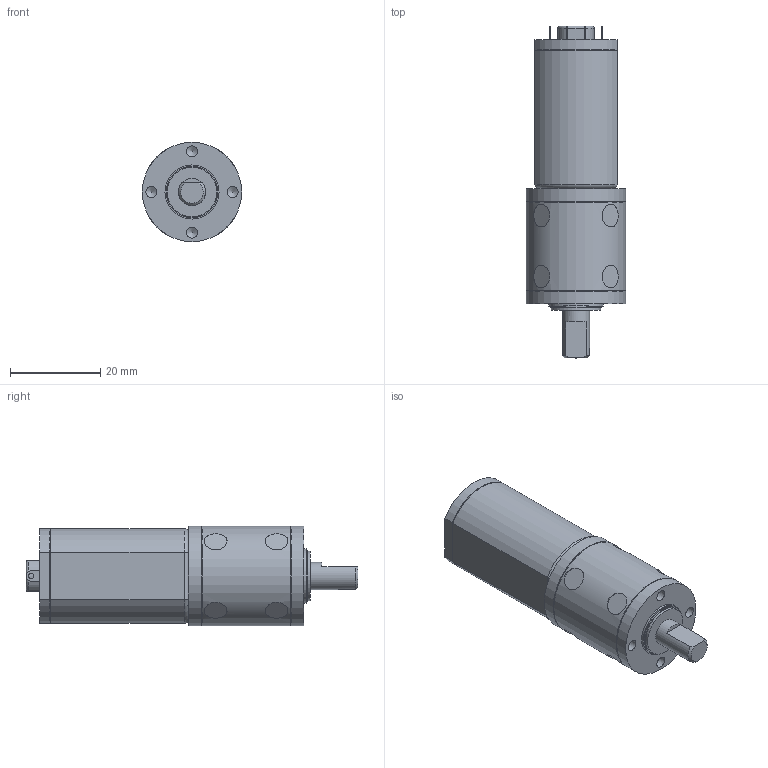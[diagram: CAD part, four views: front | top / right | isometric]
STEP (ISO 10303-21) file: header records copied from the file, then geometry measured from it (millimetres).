
FILE_DESCRIPTION((''),'2;1');
FILE_NAME('C:\Documents and Settings\SSEGAWA\デスクトップ\TP-2133C-KP-2.STP','2013-06-14T16:59:52',('SSEGAWA'),(''),'Autodesk Inventor 2010','Autodesk Inventor 2010','');
FILE_SCHEMA(('CONFIG_CONTROL_DESIGN'));
Length unit declared in the file: millimetre
Products named in the file (3): tp_2133c,d_kp_16~23_s00_12,24; kp_2; tp_2133
Assembly tree (2 placements, depth 2):
  tp_2133c,d_kp_16~23_s00_12,24
    kp_2
    tp_2133
Bounding box: 22 x 73.5 x 22 mm (x, y, z)
Volume: 20976 mm3; surface area: 5919.7 mm2
Topology: 2 solids, 2 shells, 104 faces, 226 edges, 149 vertices
Faces by surface type: plane 39, cylinder 34, bspline 21, torus 5, sphere 4, cone 1
Full cylindrical faces by diameter (mm): 1.2 x1, 2 x1, 5 x4, 6 x1, 6.5 x1, 11 x1, 11.5 x1, 12 x1, 21.6 x2, 22 x3
Entity records: 3203 total; most frequent: CARTESIAN_POINT 1053, DIRECTION 418, ORIENTED_EDGE 350, AXIS2_PLACEMENT_3D 177, EDGE_CURVE 175, EDGE_LOOP 165, VERTEX_POINT 132, FACE_OUTER_BOUND 104
